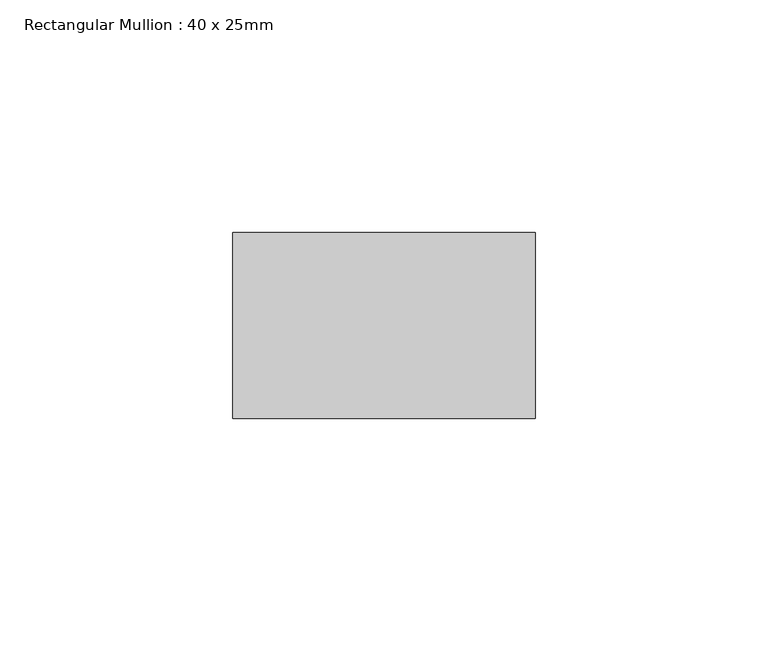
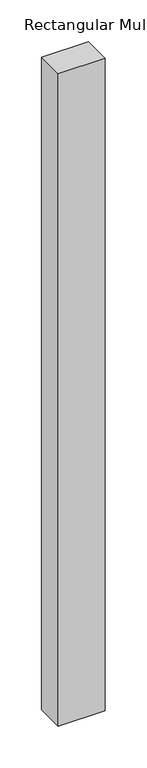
"""IFC4 building model written with IfcOpenShell, lengths in millimetres: member geometry, Rectangular Mullion : 40 x 25mm."""

from ifc_helpers import new_model, si_unit, frame, origin, place, context, project, spatial, polyline, outline, extrude, source, transform, mapped, element, save


def rectangular_mullion_40_x_25mm_0cfa7a1f(model_context):
    return source(origin(), model_context, "Body", "SweptSolid", [
        extrude(outline(polyline([(0.0, -20.0), (0.0, -60.0), (-65.0, -60.0), (-65.0, -20.0), (0.0, -20.0)])), frame((0.0, 0.0, -953.618704), z_axis=(0.0, 0.0, 1.0), x_axis=(1.0, 0.0, 0.0)), (0.0, 0.0, 1.0), 953.618704),
    ])


if __name__ == "__main__":
    model = new_model("IFC4")
    model_context = context("Model", 3, world=origin())
    ifc_project = project(units=[si_unit("LENGTHUNIT", "METRE", prefix="MILLI")], contexts=[model_context])
    site = spatial("IfcSite", under=ifc_project)
    building = spatial("IfcBuilding", under=site)
    placement = place(None, origin())
    rectangular_mullion_40_x_25mm_shape = rectangular_mullion_40_x_25mm_0cfa7a1f(model_context)
    element("IfcMember", 1, ObjectType="Rectangular Mullion : 40 x 25mm", at=placement, inside=building, context=model_context, shape_type="MappedRepresentation", body=[
        mapped(rectangular_mullion_40_x_25mm_shape, transform((0.0, 0.0, 0.0), x_axis=(1.0, 0.0, 0.0), y_axis=(0.0, 1.0, 0.0), z_axis=(0.0, 0.0, 1.0))),
    ])
    save(model, "model.ifc")
